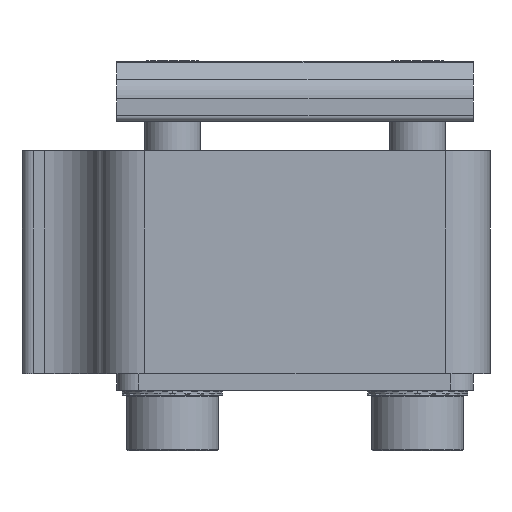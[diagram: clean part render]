
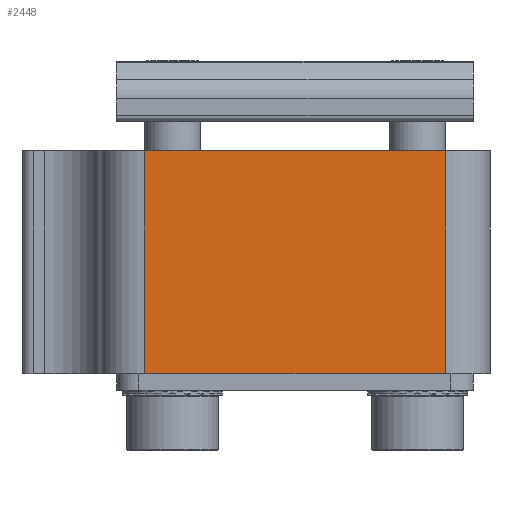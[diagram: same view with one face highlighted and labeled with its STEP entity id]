
A CAD part, front view. The second image highlights one B-rep face of the part: STEP entity #2448.
In plain terms, the highlighted planar face has unit normal (0, -1, 0).
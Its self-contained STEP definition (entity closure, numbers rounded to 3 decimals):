
#264 = VERTEX_POINT ( 'NONE', #8942 ) ;
#481 = ORIENTED_EDGE ( 'NONE', *, *, #1615, .T. ) ;
#516 = VECTOR ( 'NONE', #7833, 1000. ) ;
#1339 = DIRECTION ( 'NONE',  ( -1., 0., 0. ) ) ;
#1615 = EDGE_CURVE ( 'NONE', #4838, #8768, #8675, .T. ) ;
#1620 = ORIENTED_EDGE ( 'NONE', *, *, #5204, .T. ) ;
#2100 = CARTESIAN_POINT ( 'NONE',  ( -68.521, -30.365, 38.804 ) ) ;
#2448 = ADVANCED_FACE ( 'NONE', ( #8649 ), #4218, .T. ) ;
#3282 = LINE ( 'NONE', #2100, #7303 ) ;
#3446 = DIRECTION ( 'NONE',  ( 0., 0., -1. ) ) ;
#3863 = DIRECTION ( 'NONE',  ( 0., 0., -1. ) ) ;
#3905 = CARTESIAN_POINT ( 'NONE',  ( -99.521, -30.365, 18.804 ) ) ;
#4218 = PLANE ( 'NONE',  #7536 ) ;
#4838 = VERTEX_POINT ( 'NONE', #6476 ) ;
#5097 = EDGE_LOOP ( 'NONE', ( #1620, #9580, #9328, #481 ) ) ;
#5204 = EDGE_CURVE ( 'NONE', #8768, #264, #3282, .T. ) ;
#5290 = CARTESIAN_POINT ( 'NONE',  ( -99.521, -30.365, 18.804 ) ) ;
#5768 = VERTEX_POINT ( 'NONE', #5290 ) ;
#6309 = VECTOR ( 'NONE', #7797, 1000. ) ;
#6476 = CARTESIAN_POINT ( 'NONE',  ( -72.521, -30.365, 18.804 ) ) ;
#6524 = CARTESIAN_POINT ( 'NONE',  ( -72.521, -30.365, 38.804 ) ) ;
#6656 = CARTESIAN_POINT ( 'NONE',  ( -68.521, -30.365, 38.804 ) ) ;
#6678 = LINE ( 'NONE', #7801, #516 ) ;
#7303 = VECTOR ( 'NONE', #1339, 1000. ) ;
#7536 = AXIS2_PLACEMENT_3D ( 'NONE', #6656, #8252, #3446 ) ;
#7797 = DIRECTION ( 'NONE',  ( 0., 0., 1. ) ) ;
#7801 = CARTESIAN_POINT ( 'NONE',  ( -68.521, -30.365, 18.804 ) ) ;
#7833 = DIRECTION ( 'NONE',  ( -1., 0., 0. ) ) ;
#7837 = VECTOR ( 'NONE', #3863, 1000. ) ;
#7999 = EDGE_CURVE ( 'NONE', #264, #5768, #9972, .T. ) ;
#8252 = DIRECTION ( 'NONE',  ( 0., -1., 0. ) ) ;
#8649 = FACE_OUTER_BOUND ( 'NONE', #5097, .T. ) ;
#8675 = LINE ( 'NONE', #9322, #6309 ) ;
#8768 = VERTEX_POINT ( 'NONE', #6524 ) ;
#8942 = CARTESIAN_POINT ( 'NONE',  ( -99.521, -30.365, 38.804 ) ) ;
#9322 = CARTESIAN_POINT ( 'NONE',  ( -72.521, -30.365, 38.804 ) ) ;
#9328 = ORIENTED_EDGE ( 'NONE', *, *, #10296, .F. ) ;
#9580 = ORIENTED_EDGE ( 'NONE', *, *, #7999, .T. ) ;
#9972 = LINE ( 'NONE', #3905, #7837 ) ;
#10296 = EDGE_CURVE ( 'NONE', #4838, #5768, #6678, .T. ) ;
